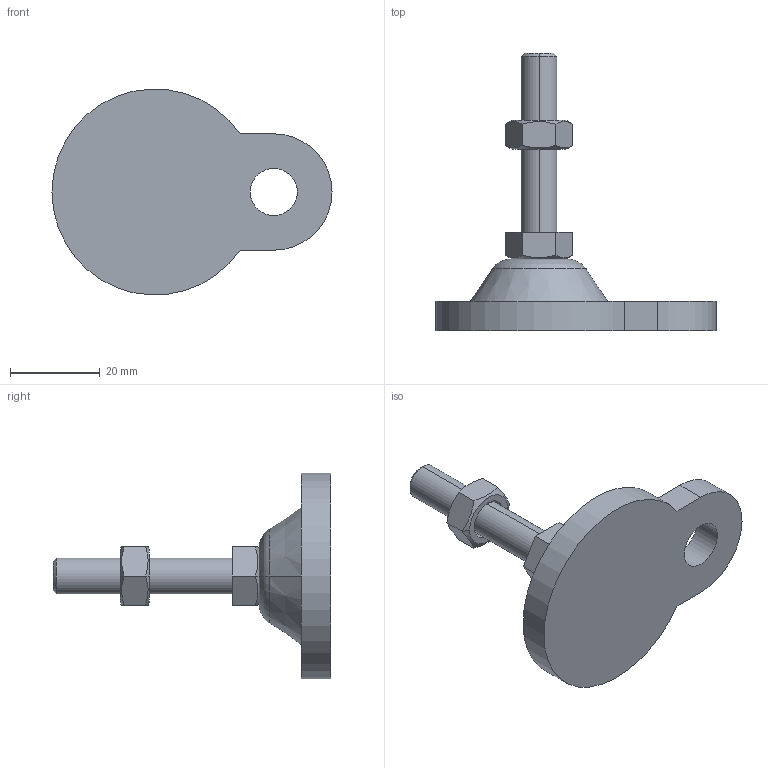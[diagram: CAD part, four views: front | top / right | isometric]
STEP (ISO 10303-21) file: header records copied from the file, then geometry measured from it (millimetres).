
FILE_DESCRIPTION (( 'STEP AP214' ), '1' );
FILE_NAME ('ARB46-M8-40.step', '2021-01-07T07:16:11', ( '' ), ( '' ), 'SwSTEP 2.0', 'SolidWorks 2019', '' );
FILE_SCHEMA (( 'AUTOMOTIVE_DESIGN' ));
Length unit declared in the file: millimetre
Products named in the file (1): ARB46-M8-40
Bounding box: 62.5 x 62 x 45.95 mm (x, y, z)
Volume: 20862.7 mm3; surface area: 7785.2 mm2
Topology: 3 solids, 3 shells, 46 faces, 100 edges, 62 vertices
Faces by surface type: plane 22, cone 14, cylinder 8, torus 2
Entity records: 1458 total; most frequent: CARTESIAN_POINT 395, DIRECTION 212, ORIENTED_EDGE 200, EDGE_CURVE 100, AXIS2_PLACEMENT_3D 83, VERTEX_POINT 62, EDGE_LOOP 52, VECTOR 46
